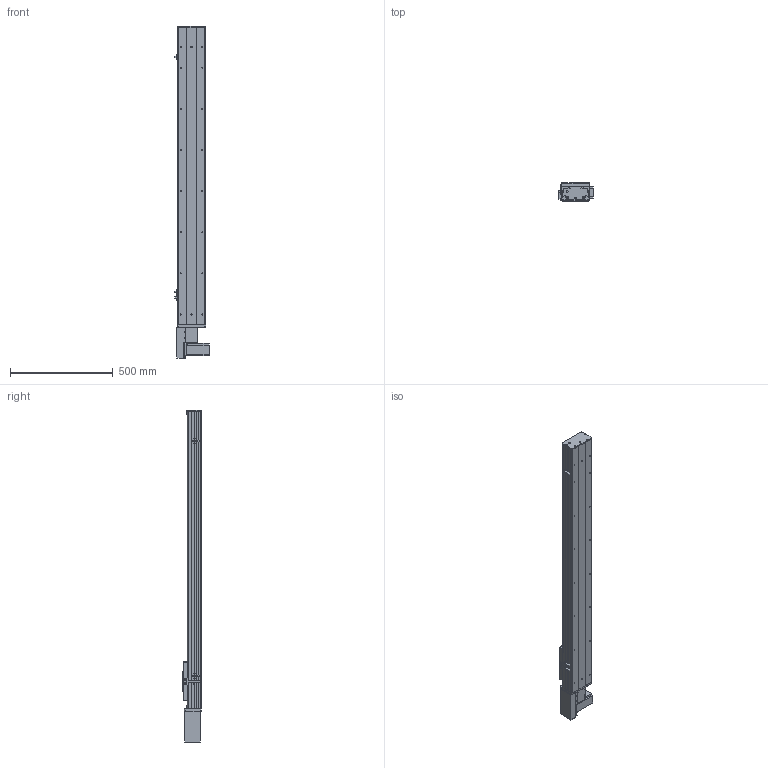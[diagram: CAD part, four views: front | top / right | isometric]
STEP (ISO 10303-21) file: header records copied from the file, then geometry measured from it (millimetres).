
FILE_DESCRIPTION (( 'STEP AP203' ), '1' );
FILE_NAME ('Y135CB-D90-S1150-BR-P400W.STEP', '2020-02-18T02:32:18', ( '微软用户' ), ( '微软中国' ), 'SwSTEP 2.0', 'SolidWorks 2017', '' );
FILE_SCHEMA (( 'CONFIG_CONTROL_DESIGN' ));
Length unit declared in the file: millimetre
Products named in the file (18): 0B-萇儂楊擘啣; 5C--俋欶; san松下电机400不带刹车----; C-雄赽釱--; Y135CB-耜裔; 5CB --掛极耜裔啣-; Y10B--々湍喘謫眊--666; 135CB---遴掛极.-; C-詩湍揤踡え-陔; Y135CB-D90-S1150-BR-P400W; 35CB---喘謫眊楊擘啣; Y10B-耜蚾蟀諉啣----; Y俋欶BR----; 135CB--詩湍-CE; 0B-埴倛裔啣; Y100-135俋离換覜ん--; 0B-源倛裔啣; Y135C-陔俋离換覜結え-
Assembly tree (21 placements, depth 2):
  Y135CB-D90-S1150-BR-P400W
    Y135CB-耜裔
    135CB---遴掛极.-
    35CB---喘謫眊楊擘啣
    Y10B-耜蚾蟀諉啣----
    Y俋欶BR----
    0B-埴倛裔啣
    0B-源倛裔啣
    0B-萇儂楊擘啣
    san松下电机400不带刹车----
    5CB --掛极耜裔啣-  x2
    C-詩湍揤踡え-陔  x2
    135CB--詩湍-CE
    Y100-135俋离換覜ん--  x3
    Y135C-陔俋离換覜結え-
    5C--俋欶
    C-雄赽釱--
    Y10B--々湍喘謫眊--666
Bounding box: 167.5 x 91 x 1614.5 mm (x, y, z)
Volume: 4776782.1 mm3; surface area: 1873729.7 mm2
Topology: 21 solids, 21 shells, 949 faces, 2545 edges, 1686 vertices
Faces by surface type: cylinder 475, plane 458, cone 16
Entity records: 29543 total; most frequent: DIRECTION 4905, CARTESIAN_POINT 4856, ORIENTED_EDGE 4566, EDGE_CURVE 2283, AXIS2_PLACEMENT_3D 1787, VERTEX_POINT 1514, VECTOR 1331, LINE 1331
